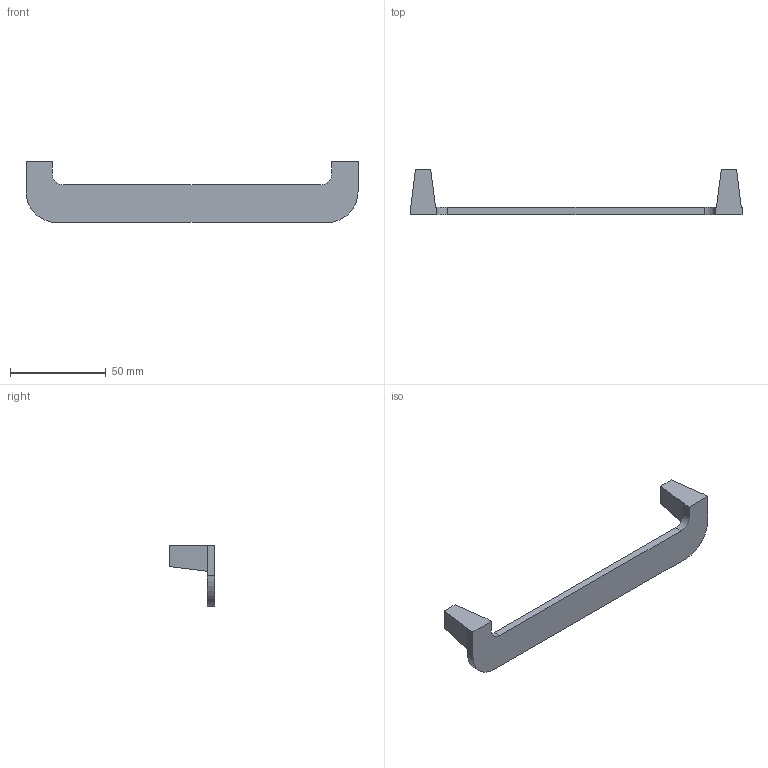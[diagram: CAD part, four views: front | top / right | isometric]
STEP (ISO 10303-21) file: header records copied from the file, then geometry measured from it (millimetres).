
FILE_DESCRIPTION( ( '' ), '1' );
FILE_NAME( 'C:/Documents and Settings/Nikhil/Desktop/Nik/Done/9132300.stp', '2013-10-24T05:32:58', ( '' ), ( '' ), ' ', ' ', ' ' );
FILE_SCHEMA( ( 'automotive_design' ) );
Length unit declared in the file: millimetre
Products named in the file (1): 1
Bounding box: 173.7 x 24 x 31.9 mm (x, y, z)
Volume: 19578.7 mm3; surface area: 10895.2 mm2
Topology: 1 solids, 1 shells, 28 faces, 72 edges, 48 vertices
Faces by surface type: plane 20, cylinder 8
Entity records: 1700 total; most frequent: STYLED_ITEM 149, PRESENTATION_STYLE_ASSIGNMENT 149, CARTESIAN_POINT 149, COLOUR_RGB 149, DIRECTION 146, ORIENTED_EDGE 144, EDGE_CURVE 72, CURVE_STYLE 72
